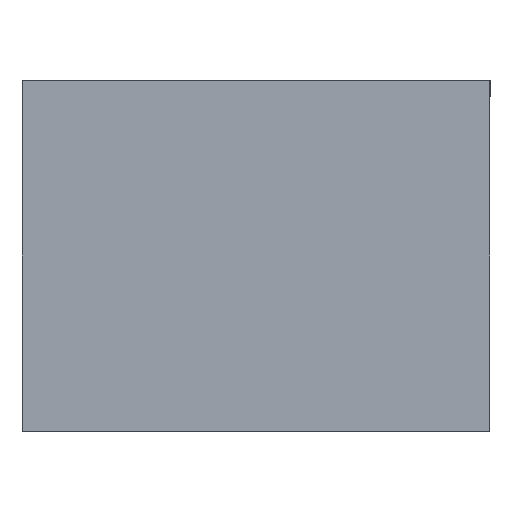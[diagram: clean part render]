
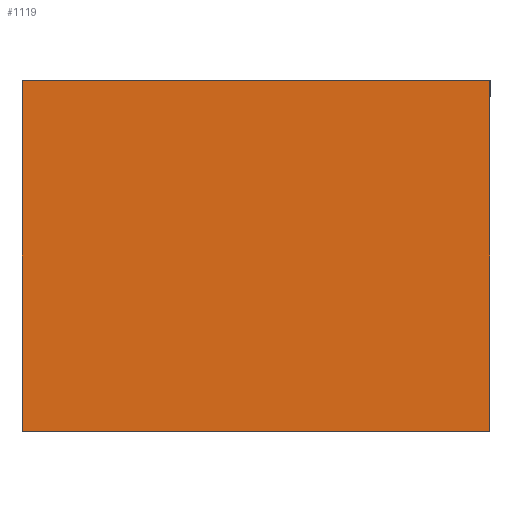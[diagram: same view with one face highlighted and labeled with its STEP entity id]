
A CAD part, front view. The second image highlights one B-rep face of the part: STEP entity #1119.
In plain terms, the highlighted planar face has unit normal (0, -1, 0).
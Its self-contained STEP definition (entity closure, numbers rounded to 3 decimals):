
#17 = CARTESIAN_POINT ( 'NONE',  ( -100., 0., 75. ) ) ;
#52 = CARTESIAN_POINT ( 'NONE',  ( -100., 0., -75. ) ) ;
#126 = CARTESIAN_POINT ( 'NONE',  ( 100., 0., -75. ) ) ;
#138 = VECTOR ( 'NONE', #1295, 1000. ) ;
#140 = ORIENTED_EDGE ( 'NONE', *, *, #367, .F. ) ;
#189 = VERTEX_POINT ( 'NONE', #229 ) ;
#229 = CARTESIAN_POINT ( 'NONE',  ( -100., 0., 75. ) ) ;
#257 = LINE ( 'NONE', #515, #2001 ) ;
#314 = LINE ( 'NONE', #17, #1156 ) ;
#349 = DIRECTION ( 'NONE',  ( -1., 0., 0. ) ) ;
#367 = EDGE_CURVE ( 'NONE', #189, #663, #314, .T. ) ;
#384 = EDGE_CURVE ( 'NONE', #666, #2039, #257, .T. ) ;
#483 = ORIENTED_EDGE ( 'NONE', *, *, #996, .F. ) ;
#485 = CARTESIAN_POINT ( 'NONE',  ( 100., 0., 75. ) ) ;
#515 = CARTESIAN_POINT ( 'NONE',  ( -100., 0., -75. ) ) ;
#617 = AXIS2_PLACEMENT_3D ( 'NONE', #1813, #1987, #985 ) ;
#663 = VERTEX_POINT ( 'NONE', #485 ) ;
#666 = VERTEX_POINT ( 'NONE', #822 ) ;
#754 = ORIENTED_EDGE ( 'NONE', *, *, #384, .F. ) ;
#805 = PLANE ( 'NONE',  #617 ) ;
#811 = VECTOR ( 'NONE', #1253, 1000. ) ;
#818 = EDGE_CURVE ( 'NONE', #2039, #189, #1699, .T. ) ;
#822 = CARTESIAN_POINT ( 'NONE',  ( 100., 0., -75. ) ) ;
#985 = DIRECTION ( 'NONE',  ( 0., 0., 1. ) ) ;
#996 = EDGE_CURVE ( 'NONE', #663, #666, #1422, .T. ) ;
#1017 = CARTESIAN_POINT ( 'NONE',  ( -100., 0., -75. ) ) ;
#1119 = ADVANCED_FACE ( 'NONE', ( #1705 ), #805, .F. ) ;
#1156 = VECTOR ( 'NONE', #1852, 1000. ) ;
#1253 = DIRECTION ( 'NONE',  ( 0., 0., 1. ) ) ;
#1295 = DIRECTION ( 'NONE',  ( 0., 0., -1. ) ) ;
#1422 = LINE ( 'NONE', #126, #138 ) ;
#1450 = ORIENTED_EDGE ( 'NONE', *, *, #818, .F. ) ;
#1518 = EDGE_LOOP ( 'NONE', ( #483, #140, #1450, #754 ) ) ;
#1699 = LINE ( 'NONE', #52, #811 ) ;
#1705 = FACE_OUTER_BOUND ( 'NONE', #1518, .T. ) ;
#1813 = CARTESIAN_POINT ( 'NONE',  ( 0., 0., 0. ) ) ;
#1852 = DIRECTION ( 'NONE',  ( 1., 0., 0. ) ) ;
#1987 = DIRECTION ( 'NONE',  ( 0., 1., 0. ) ) ;
#2001 = VECTOR ( 'NONE', #349, 1000. ) ;
#2039 = VERTEX_POINT ( 'NONE', #1017 ) ;
